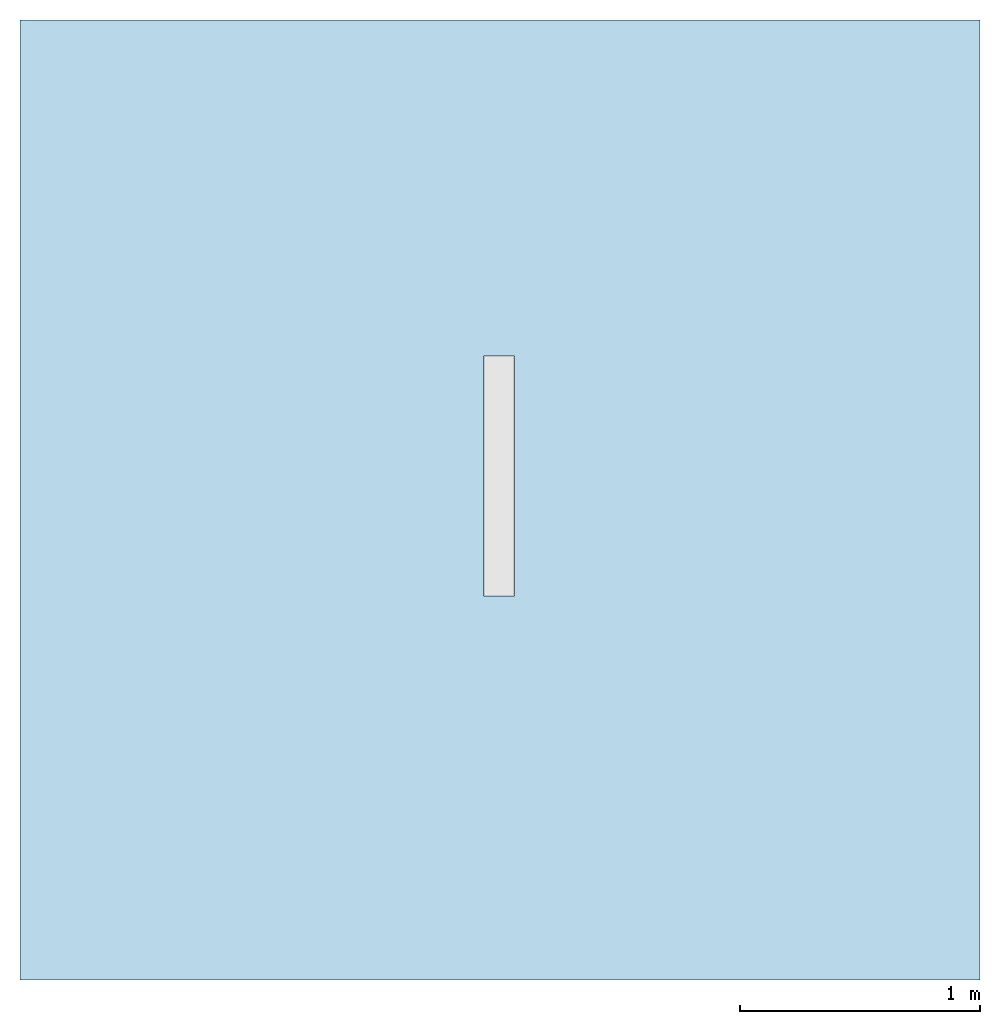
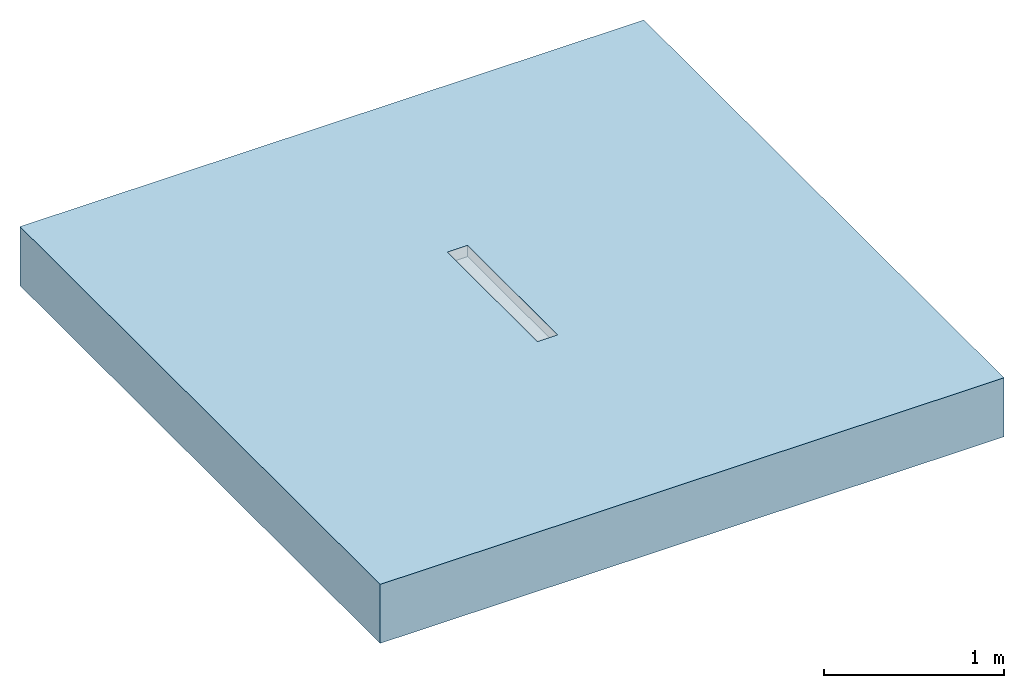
# One storey, incomplete: 1 slab.
"""IFC2X3 building model written with IfcOpenShell, lengths in millimetres."""

from ifc_helpers import new_model, entity, si_unit, converted_unit, derived_unit, direction, frame, frame_2d, origin, place, context, subcontext, project, spatial, polyline, rectangle, extrude, clip, bounded_halfspace, material, layer, layer_set, layer_usage, element, save


model = new_model("IFC2X3")

# Units and contexts
model_context = context("Model", 3, precision=1e-05, world=origin(), true_north=direction((2.0, 6.12303176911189e-17, 1.0)))
context_of_model = context(None, 3, precision=1e-05, world=origin(), true_north=direction((2.0, 6.12303176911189e-17, 1.0)))
body_context = subcontext(model_context, "Body", "Model", "MODEL_VIEW")
ifc_project = project(units=[si_unit("LENGTHUNIT", "METRE", prefix="MILLI"), si_unit("AREAUNIT", "SQUARE_METRE"), si_unit("VOLUMEUNIT", "CUBIC_METRE"), converted_unit("PLANEANGLEUNIT", "DEGREE", entity("IfcRatioMeasure", 0.0174532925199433), si_unit("PLANEANGLEUNIT", "RADIAN"), dimensions=[0, 0, 0, 0, 0, 0, 0]), si_unit("MASSUNIT", "GRAM", prefix="KILO"), si_unit("TIMEUNIT", "SECOND"), si_unit("THERMODYNAMICTEMPERATUREUNIT", "KELVIN"), derived_unit("THERMALTRANSMITTANCEUNIT", [(si_unit("MASSUNIT", "GRAM", prefix="KILO"), 1), (si_unit("THERMODYNAMICTEMPERATUREUNIT", "KELVIN"), -1), (si_unit("TIMEUNIT", "SECOND"), -3)]), derived_unit("VOLUMETRICFLOWRATEUNIT", [(si_unit("LENGTHUNIT", "METRE"), 3), (si_unit("TIMEUNIT", "SECOND"), -1)]), si_unit("POWERUNIT", "WATT")], contexts=[model_context, context_of_model])

# Site, building, storey
site_placement = place(None, origin())
site = spatial("IfcSite", under=ifc_project, at=site_placement, Name="Default", CompositionType="ELEMENT")
building_placement = place(site_placement, origin())
building = spatial("IfcBuilding", under=site, at=building_placement, CompositionType="ELEMENT")
storey_placement = place(building_placement, origin())
storey = spatial("IfcBuildingStorey", under=building, at=storey_placement, Name="Level 1", CompositionType="ELEMENT", Elevation=0.0)

# Slab
ifc_material = material(Name="Concrete, Broom Finish")
ifc_layer = layer(ifc_material, 400.0)
ifc_layer_set = layer_set([ifc_layer], Name="Floor:Generic Floor - 400mm")
ifc_layer_usage = layer_usage(ifc_layer_set, "AXIS3", "POSITIVE", 0.0)
slab_placement = place(storey_placement, origin())
element("IfcSlab", 1, at=slab_placement, inside=storey, material=ifc_layer_usage, Name="Floor:Generic Floor - 400mm", ObjectType="Floor:Generic Floor - 400mm", PredefinedType="FLOOR", context=body_context, shape_type="Clipping", body=[
    clip(extrude(rectangle(XDim=4000.0, YDim=4000.0, at=frame_2d((3.41060513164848e-13, 0.0), x_axis=(1.0, 0.0))), frame((-42.1761383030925, 2.05004766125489, 0.0), z_axis=(0.0, 0.0, -1.0), x_axis=(0.0, 1.0, 0.0)), (0.0, 0.0, 1.0), 400.0), bounded_halfspace(frame((-110.926138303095, -398.991619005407, -75.0)), False, frame((-42.1761383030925, 2.05004766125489, 0.0), z_axis=(0.0, 0.0, -1.0), x_axis=(0.0, 1.0, 0.0)), polyline([(-401.041666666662, -68.7500000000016), (-401.041666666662, 61.2499999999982), (598.958333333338, 61.2499999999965), (598.958333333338, -68.7500000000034), (-401.041666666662, -68.7500000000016)]))),
])

save(model, "model.ifc")
